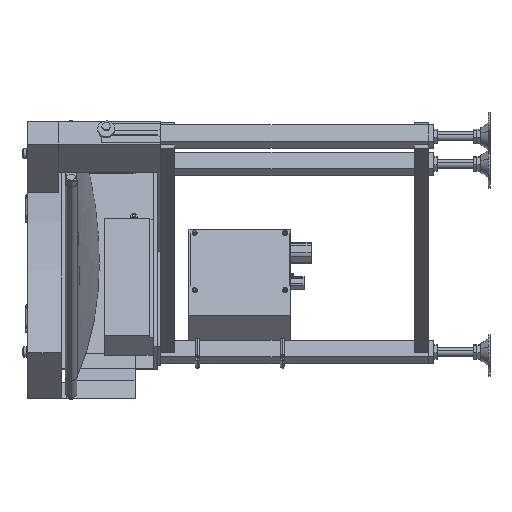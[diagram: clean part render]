
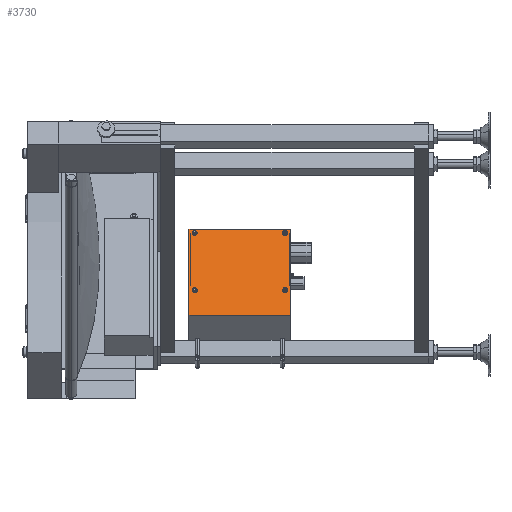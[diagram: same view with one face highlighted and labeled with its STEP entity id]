
A CAD part, left-side view. The second image highlights one B-rep face of the part: STEP entity #3730.
In plain terms, the highlighted planar face has unit normal (-0.924, 0, 0.383) by its records, which use the part's own axes.
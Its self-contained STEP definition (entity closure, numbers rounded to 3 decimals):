
#3730=ADVANCED_FACE('',(#16861,#16862,#16863,#16864,#16865),#16860,.T.);
#16860=PLANE('',#28433);
#16861=FACE_OUTER_BOUND('',#28434,.T.);
#16862=FACE_BOUND('',#28435,.T.);
#16863=FACE_BOUND('',#28436,.T.);
#16864=FACE_BOUND('',#28437,.T.);
#16865=FACE_BOUND('',#28438,.T.);
#28430=CARTESIAN_POINT('',(397.279,-407.5,-352.895));
#28431=DIRECTION('',(-0.924,0.,0.383));
#28432=DIRECTION('',(0.383,0.,0.924));
#28433=AXIS2_PLACEMENT_3D('',#28430,#28431,#28432);
#28434=EDGE_LOOP('',(#35042,#35043,#35044,#35045));
#28435=EDGE_LOOP('',(#35046,#35047));
#28436=EDGE_LOOP('',(#35048,#35049));
#28437=EDGE_LOOP('',(#35050,#35051));
#28438=EDGE_LOOP('',(#35052,#35053));
#35042=ORIENTED_EDGE('',*,*,#38499,.T.);
#35043=ORIENTED_EDGE('',*,*,#38641,.F.);
#35044=ORIENTED_EDGE('',*,*,#38354,.F.);
#35045=ORIENTED_EDGE('',*,*,#38642,.T.);
#35046=ORIENTED_EDGE('',*,*,#38392,.T.);
#35047=ORIENTED_EDGE('',*,*,#38643,.T.);
#35048=ORIENTED_EDGE('',*,*,#38414,.T.);
#35049=ORIENTED_EDGE('',*,*,#38644,.T.);
#35050=ORIENTED_EDGE('',*,*,#38436,.T.);
#35051=ORIENTED_EDGE('',*,*,#38645,.T.);
#35052=ORIENTED_EDGE('',*,*,#38458,.T.);
#35053=ORIENTED_EDGE('',*,*,#38646,.T.);
#38354=EDGE_CURVE('',#57460,#57468,#57469,.T.);
#38392=EDGE_CURVE('',#57727,#57720,#57728,.T.);
#38414=EDGE_CURVE('',#57881,#57874,#57882,.T.);
#38436=EDGE_CURVE('',#58035,#58028,#58036,.T.);
#38458=EDGE_CURVE('',#58189,#58182,#58190,.T.);
#38499=EDGE_CURVE('',#58476,#58469,#58477,.T.);
#38641=EDGE_CURVE('',#57468,#58469,#59422,.T.);
#38642=EDGE_CURVE('',#57460,#58476,#59428,.T.);
#38643=EDGE_CURVE('',#57720,#57727,#59434,.T.);
#38644=EDGE_CURVE('',#57874,#57881,#59440,.T.);
#38645=EDGE_CURVE('',#58028,#58035,#59446,.T.);
#38646=EDGE_CURVE('',#58182,#58189,#59452,.T.);
#57460=VERTEX_POINT('',#73878);
#57468=VERTEX_POINT('',#73883);
#57469=LINE('',#73884,#73885);
#57720=VERTEX_POINT('',#74047);
#57727=VERTEX_POINT('',#74051);
#57728=CIRCLE('',#74055,4.5);
#57874=VERTEX_POINT('',#74149);
#57881=VERTEX_POINT('',#74153);
#57882=CIRCLE('',#74157,4.5);
#58028=VERTEX_POINT('',#74251);
#58035=VERTEX_POINT('',#74255);
#58036=CIRCLE('',#74259,4.5);
#58182=VERTEX_POINT('',#74353);
#58189=VERTEX_POINT('',#74357);
#58190=CIRCLE('',#74361,4.5);
#58469=VERTEX_POINT('',#74534);
#58476=VERTEX_POINT('',#74538);
#58477=LINE('',#74539,#74540);
#59422=LINE('',#75092,#75093);
#59428=LINE('',#75095,#75096);
#59434=CIRCLE('',#75101,4.5);
#59440=CIRCLE('',#75105,4.5);
#59446=CIRCLE('',#75109,4.5);
#59452=CIRCLE('',#75113,4.5);
#73878=CARTESIAN_POINT('',(401.106,-397.5,-343.656));
#73883=CARTESIAN_POINT('',(401.106,-217.5,-343.656));
#73884=CARTESIAN_POINT('',(401.106,-397.5,-343.656));
#73885=VECTOR('',#73886,180.);
#73886=DIRECTION('',(0.,1.,0.));
#74047=CARTESIAN_POINT('',(421.006,-387.5,-295.614));
#74051=CARTESIAN_POINT('',(417.561,-387.5,-303.929));
#74052=CARTESIAN_POINT('',(419.283,-387.5,-299.772));
#74053=DIRECTION('',(0.924,0.,-0.383));
#74054=DIRECTION('',(-0.383,0.,-0.924));
#74055=AXIS2_PLACEMENT_3D('',#74052,#74053,#74054);
#74149=CARTESIAN_POINT('',(463.101,-387.5,-193.987));
#74153=CARTESIAN_POINT('',(459.657,-387.5,-202.302));
#74154=CARTESIAN_POINT('',(461.379,-387.5,-198.145));
#74155=DIRECTION('',(0.924,0.,-0.383));
#74156=DIRECTION('',(0.383,0.,0.924));
#74157=AXIS2_PLACEMENT_3D('',#74154,#74155,#74156);
#74251=CARTESIAN_POINT('',(421.006,-227.5,-295.614));
#74255=CARTESIAN_POINT('',(417.561,-227.5,-303.929));
#74256=CARTESIAN_POINT('',(419.283,-227.5,-299.772));
#74257=DIRECTION('',(0.924,0.,-0.383));
#74258=DIRECTION('',(0.383,0.,0.924));
#74259=AXIS2_PLACEMENT_3D('',#74256,#74257,#74258);
#74353=CARTESIAN_POINT('',(463.101,-227.5,-193.987));
#74357=CARTESIAN_POINT('',(459.657,-227.5,-202.302));
#74358=CARTESIAN_POINT('',(461.379,-227.5,-198.145));
#74359=DIRECTION('',(0.924,0.,-0.383));
#74360=DIRECTION('',(0.383,0.,0.924));
#74361=AXIS2_PLACEMENT_3D('',#74358,#74359,#74360);
#74534=CARTESIAN_POINT('',(464.249,-217.5,-191.216));
#74538=CARTESIAN_POINT('',(464.249,-397.5,-191.216));
#74539=CARTESIAN_POINT('',(464.249,-397.5,-191.216));
#74540=VECTOR('',#74541,180.);
#74541=DIRECTION('',(0.,1.,0.));
#75092=CARTESIAN_POINT('',(401.106,-217.5,-343.656));
#75093=VECTOR('',#75094,165.);
#75094=DIRECTION('',(0.383,0.,0.924));
#75095=CARTESIAN_POINT('',(401.106,-397.5,-343.656));
#75096=VECTOR('',#75097,165.);
#75097=DIRECTION('',(0.383,0.,0.924));
#75098=CARTESIAN_POINT('',(419.283,-387.5,-299.772));
#75099=DIRECTION('',(0.924,0.,-0.383));
#75100=DIRECTION('',(0.383,0.,0.924));
#75101=AXIS2_PLACEMENT_3D('',#75098,#75099,#75100);
#75102=CARTESIAN_POINT('',(461.379,-387.5,-198.145));
#75103=DIRECTION('',(0.924,0.,-0.383));
#75104=DIRECTION('',(0.383,0.,0.924));
#75105=AXIS2_PLACEMENT_3D('',#75102,#75103,#75104);
#75106=CARTESIAN_POINT('',(419.283,-227.5,-299.772));
#75107=DIRECTION('',(0.924,0.,-0.383));
#75108=DIRECTION('',(0.383,0.,0.924));
#75109=AXIS2_PLACEMENT_3D('',#75106,#75107,#75108);
#75110=CARTESIAN_POINT('',(461.379,-227.5,-198.145));
#75111=DIRECTION('',(0.924,0.,-0.383));
#75112=DIRECTION('',(0.383,0.,0.924));
#75113=AXIS2_PLACEMENT_3D('',#75110,#75111,#75112);
